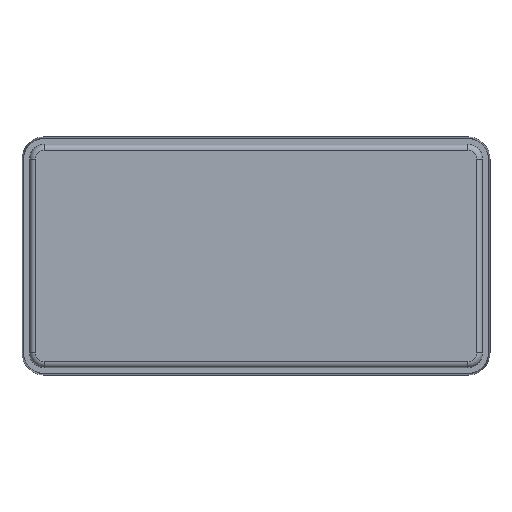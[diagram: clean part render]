
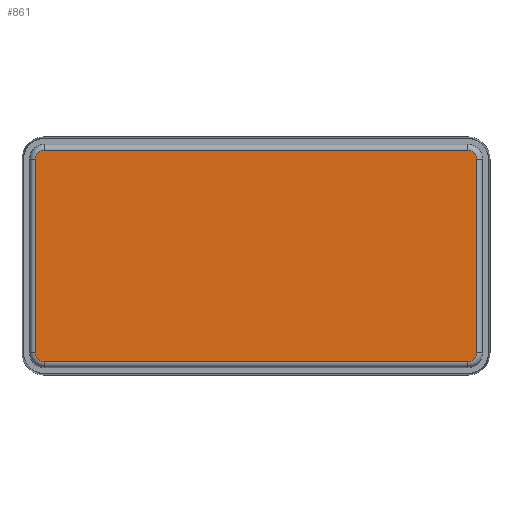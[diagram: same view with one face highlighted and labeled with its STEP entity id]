
A CAD part, front view. The second image highlights one B-rep face of the part: STEP entity #861.
In plain terms, the highlighted planar face has unit normal (0, -1, 0).
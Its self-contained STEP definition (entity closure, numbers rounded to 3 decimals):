
#4 = VERTEX_POINT ( 'NONE', #101 ) ;
#46 = ORIENTED_EDGE ( 'NONE', *, *, #255, .T. ) ;
#86 = EDGE_CURVE ( 'NONE', #340, #1112, #223, .T. ) ;
#101 = CARTESIAN_POINT ( 'NONE',  ( 37.25, -3., 16.35 ) ) ;
#103 = ORIENTED_EDGE ( 'NONE', *, *, #1122, .T. ) ;
#111 = CARTESIAN_POINT ( 'NONE',  ( -37.25, -3., -16.35 ) ) ;
#134 = DIRECTION ( 'NONE',  ( 0., 0., -1. ) ) ;
#140 = CARTESIAN_POINT ( 'NONE',  ( 37.25, -3., -16.35 ) ) ;
#157 = VECTOR ( 'NONE', #134, 1000. ) ;
#223 = LINE ( 'NONE', #111, #157 ) ;
#255 = EDGE_CURVE ( 'NONE', #405, #1071, #1276, .T. ) ;
#290 = CARTESIAN_POINT ( 'NONE',  ( -35.75, -3., -17.85 ) ) ;
#293 = VERTEX_POINT ( 'NONE', #290 ) ;
#340 = VERTEX_POINT ( 'NONE', #446 ) ;
#344 = AXIS2_PLACEMENT_3D ( 'NONE', #1435, #1497, #598 ) ;
#365 = CARTESIAN_POINT ( 'NONE',  ( 37.25, -3., 16.35 ) ) ;
#400 = DIRECTION ( 'NONE',  ( 0., 0., 1. ) ) ;
#405 = VERTEX_POINT ( 'NONE', #450 ) ;
#421 = ORIENTED_EDGE ( 'NONE', *, *, #86, .T. ) ;
#430 = CIRCLE ( 'NONE', #636, 1.5 ) ;
#446 = CARTESIAN_POINT ( 'NONE',  ( -37.25, -3., 16.35 ) ) ;
#450 = CARTESIAN_POINT ( 'NONE',  ( 35.75, -3., 17.85 ) ) ;
#505 = AXIS2_PLACEMENT_3D ( 'NONE', #540, #1441, #1443 ) ;
#540 = CARTESIAN_POINT ( 'NONE',  ( -35.75, -3., 16.35 ) ) ;
#549 = PLANE ( 'NONE',  #505 ) ;
#551 = VECTOR ( 'NONE', #638, 1000. ) ;
#581 = VERTEX_POINT ( 'NONE', #140 ) ;
#598 = DIRECTION ( 'NONE',  ( 0., 0., -1. ) ) ;
#636 = AXIS2_PLACEMENT_3D ( 'NONE', #697, #693, #689 ) ;
#638 = DIRECTION ( 'NONE',  ( 1., 0., 0. ) ) ;
#640 = EDGE_CURVE ( 'NONE', #1071, #340, #430, .T. ) ;
#646 = CARTESIAN_POINT ( 'NONE',  ( 35.75, -3., -17.85 ) ) ;
#681 = DIRECTION ( 'NONE',  ( 0., -1., 0. ) ) ;
#689 = DIRECTION ( 'NONE',  ( 0., 0., -1. ) ) ;
#693 = DIRECTION ( 'NONE',  ( 0., -1., 0. ) ) ;
#697 = CARTESIAN_POINT ( 'NONE',  ( -35.75, -3., 16.35 ) ) ;
#700 = EDGE_CURVE ( 'NONE', #293, #1301, #1244, .T. ) ;
#711 = CIRCLE ( 'NONE', #718, 1.5 ) ;
#718 = AXIS2_PLACEMENT_3D ( 'NONE', #843, #681, #783 ) ;
#742 = CARTESIAN_POINT ( 'NONE',  ( -37.25, -3., -16.35 ) ) ;
#783 = DIRECTION ( 'NONE',  ( 0., 0., -1. ) ) ;
#795 = ORIENTED_EDGE ( 'NONE', *, *, #857, .T. ) ;
#843 = CARTESIAN_POINT ( 'NONE',  ( 35.75, -3., 16.35 ) ) ;
#857 = EDGE_CURVE ( 'NONE', #1301, #581, #1261, .T. ) ;
#861 = ADVANCED_FACE ( 'NONE', ( #1486 ), #549, .T. ) ;
#955 = CARTESIAN_POINT ( 'NONE',  ( -35.75, -3., 17.85 ) ) ;
#1016 = VECTOR ( 'NONE', #1550, 1000. ) ;
#1053 = CARTESIAN_POINT ( 'NONE',  ( -35.75, -3., -16.35 ) ) ;
#1055 = DIRECTION ( 'NONE',  ( 0., -1., 0. ) ) ;
#1059 = DIRECTION ( 'NONE',  ( 0., 0., -1. ) ) ;
#1071 = VERTEX_POINT ( 'NONE', #1353 ) ;
#1103 = VECTOR ( 'NONE', #400, 1000. ) ;
#1112 = VERTEX_POINT ( 'NONE', #742 ) ;
#1122 = EDGE_CURVE ( 'NONE', #4, #405, #711, .T. ) ;
#1172 = CARTESIAN_POINT ( 'NONE',  ( 35.75, -3., -17.85 ) ) ;
#1178 = ORIENTED_EDGE ( 'NONE', *, *, #700, .T. ) ;
#1215 = EDGE_CURVE ( 'NONE', #581, #4, #1335, .T. ) ;
#1244 = LINE ( 'NONE', #646, #551 ) ;
#1261 = CIRCLE ( 'NONE', #344, 1.5 ) ;
#1276 = LINE ( 'NONE', #955, #1016 ) ;
#1301 = VERTEX_POINT ( 'NONE', #1172 ) ;
#1315 = CIRCLE ( 'NONE', #1552, 1.5 ) ;
#1335 = LINE ( 'NONE', #365, #1103 ) ;
#1352 = ORIENTED_EDGE ( 'NONE', *, *, #640, .T. ) ;
#1353 = CARTESIAN_POINT ( 'NONE',  ( -35.75, -3., 17.85 ) ) ;
#1404 = ORIENTED_EDGE ( 'NONE', *, *, #1589, .T. ) ;
#1435 = CARTESIAN_POINT ( 'NONE',  ( 35.75, -3., -16.35 ) ) ;
#1441 = DIRECTION ( 'NONE',  ( 0., -1., 0. ) ) ;
#1443 = DIRECTION ( 'NONE',  ( 0., 0., -1. ) ) ;
#1471 = ORIENTED_EDGE ( 'NONE', *, *, #1215, .T. ) ;
#1486 = FACE_OUTER_BOUND ( 'NONE', #1505, .T. ) ;
#1497 = DIRECTION ( 'NONE',  ( 0., -1., 0. ) ) ;
#1505 = EDGE_LOOP ( 'NONE', ( #421, #1404, #1178, #795, #1471, #103, #46, #1352 ) ) ;
#1550 = DIRECTION ( 'NONE',  ( -1., 0., 0. ) ) ;
#1552 = AXIS2_PLACEMENT_3D ( 'NONE', #1053, #1055, #1059 ) ;
#1589 = EDGE_CURVE ( 'NONE', #1112, #293, #1315, .T. ) ;
